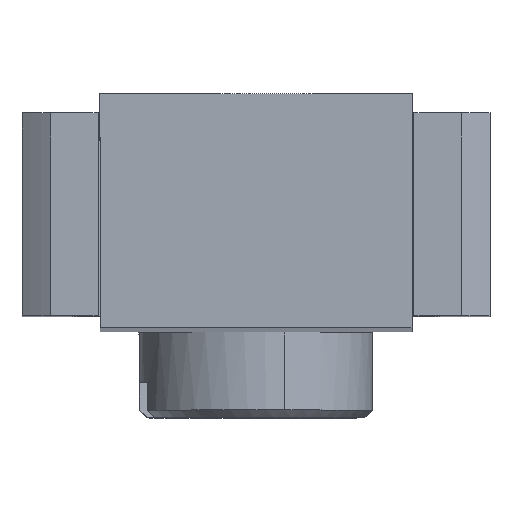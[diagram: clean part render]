
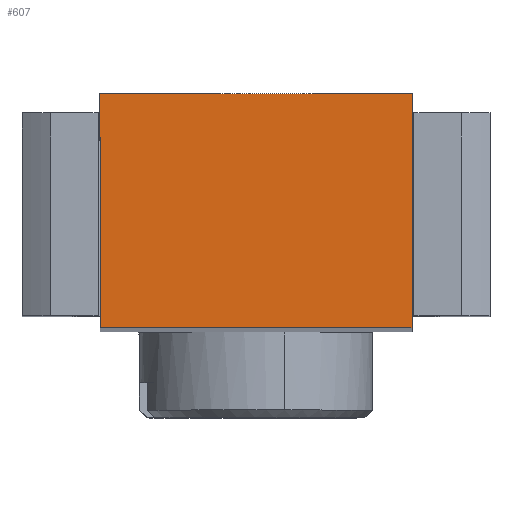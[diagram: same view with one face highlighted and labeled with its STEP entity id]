
A CAD part, top view. The second image highlights one B-rep face of the part: STEP entity #607.
In plain terms, the highlighted planar face has unit normal (0, 0, 1).
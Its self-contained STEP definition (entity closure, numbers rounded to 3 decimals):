
#56 = EDGE_CURVE ( 'NONE', #869, #465, #1449, .T. ) ;
#77 = DIRECTION ( 'NONE',  ( 0., -1., 0. ) ) ;
#96 = EDGE_CURVE ( 'NONE', #419, #869, #1314, .T. ) ;
#152 = CARTESIAN_POINT ( 'NONE',  ( -2., -1.53, -17.837 ) ) ;
#169 = CARTESIAN_POINT ( 'NONE',  ( 2., -1.53, -17.837 ) ) ;
#191 = LINE ( 'NONE', #241, #749 ) ;
#241 = CARTESIAN_POINT ( 'NONE',  ( 2., 1.47, -17.837 ) ) ;
#306 = DIRECTION ( 'NONE',  ( 0., 1., 0. ) ) ;
#350 = FACE_OUTER_BOUND ( 'NONE', #502, .T. ) ;
#394 = LINE ( 'NONE', #1069, #725 ) ;
#419 = VERTEX_POINT ( 'NONE', #1352 ) ;
#442 = VECTOR ( 'NONE', #77, 1000. ) ;
#448 = EDGE_CURVE ( 'NONE', #465, #611, #191, .T. ) ;
#465 = VERTEX_POINT ( 'NONE', #1610 ) ;
#502 = EDGE_LOOP ( 'NONE', ( #1472, #1118, #1504, #1687 ) ) ;
#600 = DIRECTION ( 'NONE',  ( 0., 0., 1. ) ) ;
#607 = ADVANCED_FACE ( 'NONE', ( #350 ), #1272, .T. ) ;
#611 = VERTEX_POINT ( 'NONE', #1600 ) ;
#725 = VECTOR ( 'NONE', #1612, 1000. ) ;
#749 = VECTOR ( 'NONE', #306, 1000. ) ;
#869 = VERTEX_POINT ( 'NONE', #1558 ) ;
#949 = AXIS2_PLACEMENT_3D ( 'NONE', #169, #600, #1471 ) ;
#1005 = CARTESIAN_POINT ( 'NONE',  ( -2., 1.47, -17.837 ) ) ;
#1013 = DIRECTION ( 'NONE',  ( 1., 0., 0. ) ) ;
#1069 = CARTESIAN_POINT ( 'NONE',  ( 2., 1.47, -17.837 ) ) ;
#1118 = ORIENTED_EDGE ( 'NONE', *, *, #1127, .T. ) ;
#1127 = EDGE_CURVE ( 'NONE', #611, #419, #394, .T. ) ;
#1180 = VECTOR ( 'NONE', #1013, 1000. ) ;
#1272 = PLANE ( 'NONE',  #949 ) ;
#1314 = LINE ( 'NONE', #1005, #442 ) ;
#1352 = CARTESIAN_POINT ( 'NONE',  ( -2., 1.47, -17.837 ) ) ;
#1449 = LINE ( 'NONE', #152, #1180 ) ;
#1471 = DIRECTION ( 'NONE',  ( 1., 0., 0. ) ) ;
#1472 = ORIENTED_EDGE ( 'NONE', *, *, #448, .T. ) ;
#1504 = ORIENTED_EDGE ( 'NONE', *, *, #96, .T. ) ;
#1558 = CARTESIAN_POINT ( 'NONE',  ( -2., -1.53, -17.837 ) ) ;
#1600 = CARTESIAN_POINT ( 'NONE',  ( 2., 1.47, -17.837 ) ) ;
#1610 = CARTESIAN_POINT ( 'NONE',  ( 2., -1.53, -17.837 ) ) ;
#1612 = DIRECTION ( 'NONE',  ( -1., 0., 0. ) ) ;
#1687 = ORIENTED_EDGE ( 'NONE', *, *, #56, .T. ) ;
